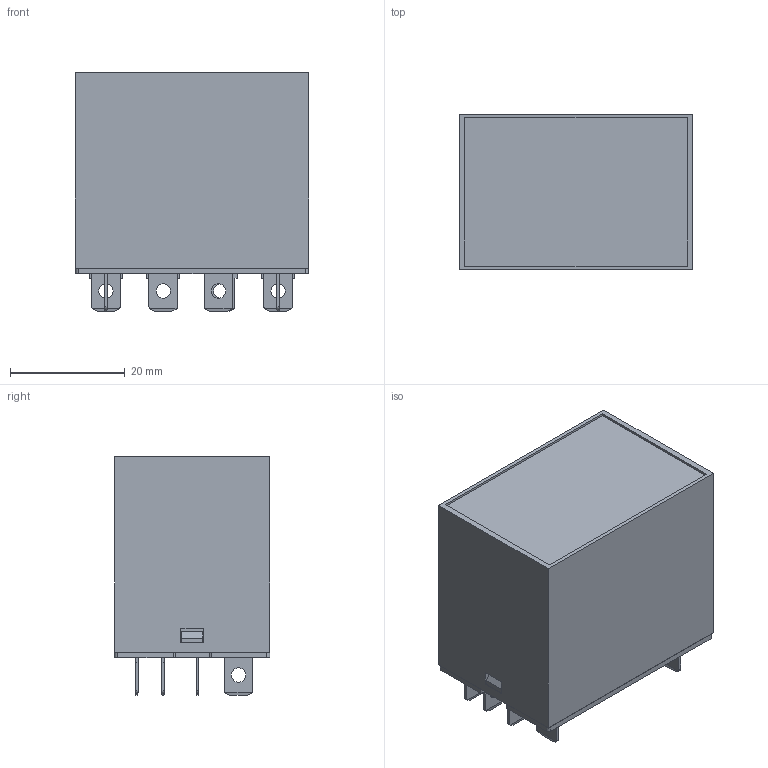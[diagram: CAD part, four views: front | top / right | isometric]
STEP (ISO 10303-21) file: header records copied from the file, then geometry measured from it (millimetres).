
FILE_DESCRIPTION (( 'STEP AP203' ), '1' );
FILE_NAME ('68A4Z都寞.STEP', '2019-03-13T08:09:31', ( 'XiaZaiMa.COM' ), ( 'Win10NeT.COM' ), 'SwSTEP 2.0', 'SolidWorks 2014', '' );
FILE_SCHEMA (( 'CONFIG_CONTROL_DESIGN' ));
Length unit declared in the file: millimetre
Products named in the file (22): 雄銅え郪璃; 盄婁ㄗ竘盄宒ㄘ; 橈埽え; 棠繚郪璃; 價釱; 玴沺ㄗDCㄘ; 路說欶; 噙えㄗ湮謂遵褐ㄘ; 酗穩隊; 俋褲; 噙揖萸; 132Z三复合动点铆后; 雄銅え標; 諉盄えㄗ遵褐ㄘ; 雄輸; 雄銅え; 线圈架（引线式）; 嶺銅; 沺郋; 蹟佪; 鴃筺; 68A4Z都寞
Assembly tree (47 placements, depth 4):
  68A4Z都寞
    價釱
    噙えㄗ湮謂遵褐ㄘ  x8
    噙揖萸  x8
    諉盄えㄗ遵褐ㄘ  x6
    棠繚郪璃
      线圈架（引线式）
      沺郋  x4
      鴃筺
      盄婁ㄗ竘盄宒ㄘ
    路說欶
    俋褲
    雄輸
      雄銅え郪璃
        雄銅え標
        雄銅え
      橈埽え
      玴沺ㄗDCㄘ
      酗穩隊  x2
      132Z三复合动点铆后  x4
    嶺銅
    蹟佪
Bounding box: 40.7 x 27.1 x 41.5 mm (x, y, z)
Volume: 19323.9 mm3; surface area: 34176.4 mm2
Topology: 47 solids, 47 shells, 1531 faces, 4074 edges, 2688 vertices
Faces by surface type: plane 1061, cylinder 366, torus 38, bspline 26, cone 24, sphere 16
Entity records: 36830 total; most frequent: CARTESIAN_POINT 11022, ORIENTED_EDGE 4832, DIRECTION 4582, EDGE_CURVE 2416, LINE 1846, VECTOR 1846, VERTEX_POINT 1590, AXIS2_PLACEMENT_3D 1368
